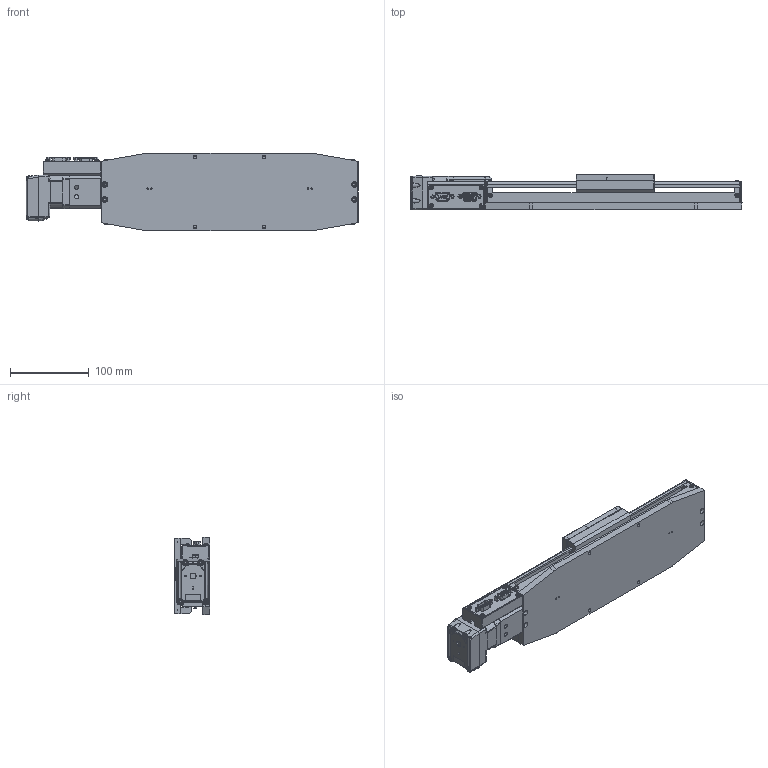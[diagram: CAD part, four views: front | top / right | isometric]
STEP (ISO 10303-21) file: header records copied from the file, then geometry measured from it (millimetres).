
FILE_DESCRIPTION (( 'STEP AP214' ), '1' );
FILE_NAME ('L3500.200-STA_v2_20180822.STEP', '2018-08-22T11:24:51', ( '' ), ( '' ), 'SwSTEP 2.0', 'SolidWorks 2017', '' );
FILE_SCHEMA (( 'AUTOMOTIVE_DESIGN' ));
Length unit declared in the file: millimetre
Products named in the file (1): L3500.200-STA_v2_20180822
Bounding box: 422.73 x 45.42 x 99.06 mm (x, y, z)
Surface area: 311641.8 mm2 (no closed solid volume)
Topology: 0 solids, 39 shells, 2996 faces, 7952 edges, 5139 vertices
Faces by surface type: plane 1370, cylinder 1067, bspline 292, cone 201, torus 66
Entity records: 126738 total; most frequent: CARTESIAN_POINT 54074, ORIENTED_EDGE 15591, DIRECTION 13944, EDGE_CURVE 7807, VERTEX_POINT 5139, AXIS2_PLACEMENT_3D 4804, LINE 4336, VECTOR 4336
